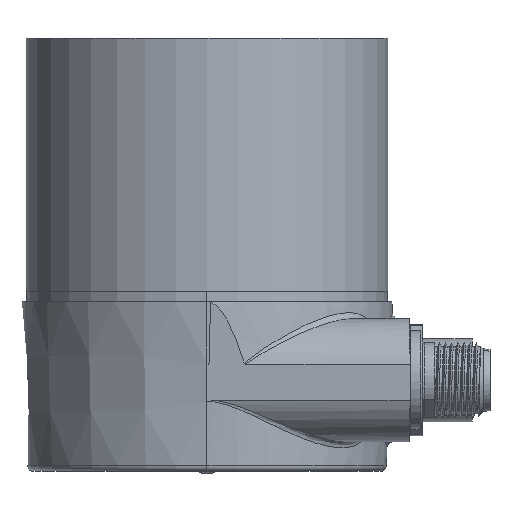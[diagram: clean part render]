
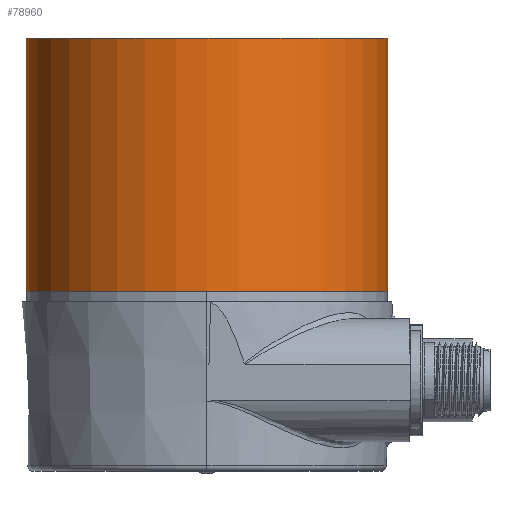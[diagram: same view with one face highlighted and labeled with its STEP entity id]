
A CAD part, left-side view. The second image highlights one B-rep face of the part: STEP entity #78960.
In plain terms, the highlighted cylindrical face has radius 29.3 mm (diameter 58.6 mm), a partial arc.
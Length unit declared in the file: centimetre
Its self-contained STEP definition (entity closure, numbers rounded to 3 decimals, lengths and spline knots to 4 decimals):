
#32234 = DIRECTION ( 'NONE',  ( 0., 0., -1. ) ) ;
#32235 = DIRECTION ( 'NONE',  ( 0., -1., 0. ) ) ;
#32236 = CARTESIAN_POINT ( 'NONE',  ( 0., 4.1, 0. ) ) ;
#32237 = AXIS2_PLACEMENT_3D ( 'NONE', #32236, #32235, #32234 ) ;
#32238 = CYLINDRICAL_SURFACE ( 'NONE', #32237, 2.93 ) ;
#32239 = FACE_OUTER_BOUND ( 'NONE', #78961, .T. ) ;
#32281 = DIRECTION ( 'NONE',  ( 0., -1., 0. ) ) ;
#32282 = VECTOR ( 'NONE', #32281, 100. ) ;
#32283 = CARTESIAN_POINT ( 'NONE',  ( 0., 4.1, 2.93 ) ) ;
#32284 = LINE ( 'NONE', #32283, #32282 ) ;
#32286 = CARTESIAN_POINT ( 'NONE',  ( 0., 4.1, -2.93 ) ) ;
#32287 = CARTESIAN_POINT ( 'NONE',  ( 0., 4.1, 2.93 ) ) ;
#32288 = DIRECTION ( 'NONE',  ( 0., 0., 1. ) ) ;
#32289 = DIRECTION ( 'NONE',  ( 0., 1., 0. ) ) ;
#32290 = CARTESIAN_POINT ( 'NONE',  ( 0., 4.1, 0. ) ) ;
#32291 = AXIS2_PLACEMENT_3D ( 'NONE', #32290, #32289, #32288 ) ;
#32316 = CIRCLE ( 'NONE', #32291, 2.93 ) ;
#32344 = DIRECTION ( 'NONE',  ( 0., -1., 0. ) ) ;
#32345 = VECTOR ( 'NONE', #32344, 100. ) ;
#32346 = CARTESIAN_POINT ( 'NONE',  ( 0., 4.1, -2.93 ) ) ;
#32347 = LINE ( 'NONE', #32346, #32345 ) ;
#32348 = CARTESIAN_POINT ( 'NONE',  ( 0., 0., -2.93 ) ) ;
#32349 = DIRECTION ( 'NONE',  ( 0., 0., 1. ) ) ;
#32350 = DIRECTION ( 'NONE',  ( 0., 1., 0. ) ) ;
#32351 = CARTESIAN_POINT ( 'NONE',  ( 0., 0., 0. ) ) ;
#32352 = AXIS2_PLACEMENT_3D ( 'NONE', #32351, #32350, #32349 ) ;
#32353 = CIRCLE ( 'NONE', #32352, 2.93 ) ;
#32355 = CARTESIAN_POINT ( 'NONE',  ( 0., 0., 2.93 ) ) ;
#78960 = ADVANCED_FACE ( 'NONE', ( #32239 ), #32238, .T. ) ;
#78961 = EDGE_LOOP ( 'NONE', ( #78963, #78984, #78987, #78990 ) ) ;
#78963 = ORIENTED_EDGE ( 'NONE', *, *, #78981, .F. ) ;
#78981 = EDGE_CURVE ( 'NONE', #78982, #78983, #32316, .T. ) ;
#78982 = VERTEX_POINT ( 'NONE', #32287 ) ;
#78983 = VERTEX_POINT ( 'NONE', #32286 ) ;
#78984 = ORIENTED_EDGE ( 'NONE', *, *, #78985, .T. ) ;
#78985 = EDGE_CURVE ( 'NONE', #78982, #78986, #32284, .T. ) ;
#78986 = VERTEX_POINT ( 'NONE', #32355 ) ;
#78987 = ORIENTED_EDGE ( 'NONE', *, *, #78988, .T. ) ;
#78988 = EDGE_CURVE ( 'NONE', #78986, #78989, #32353, .T. ) ;
#78989 = VERTEX_POINT ( 'NONE', #32348 ) ;
#78990 = ORIENTED_EDGE ( 'NONE', *, *, #78991, .F. ) ;
#78991 = EDGE_CURVE ( 'NONE', #78983, #78989, #32347, .T. ) ;
